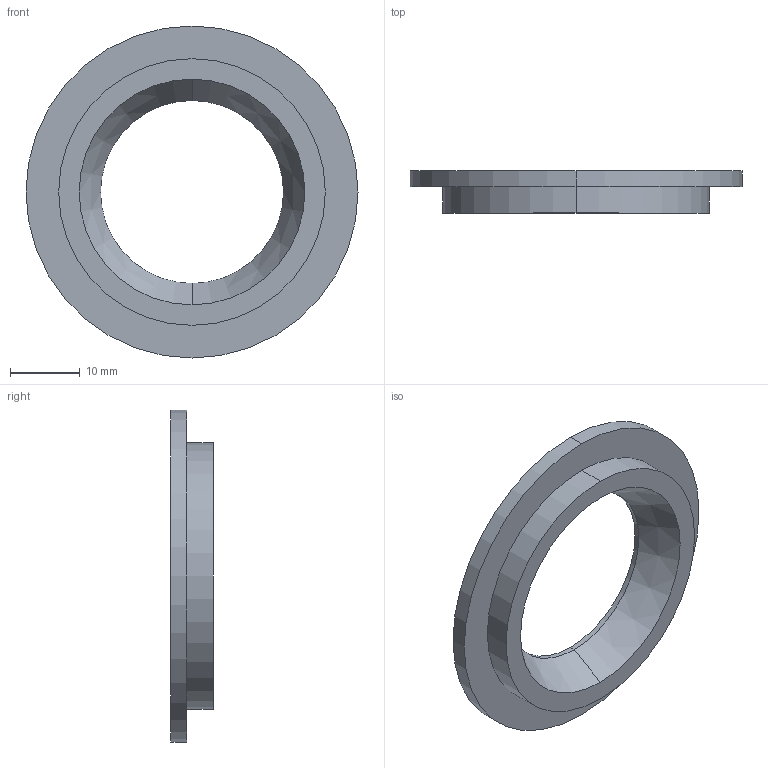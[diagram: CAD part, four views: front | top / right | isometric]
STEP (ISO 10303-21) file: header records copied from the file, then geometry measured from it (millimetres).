
FILE_DESCRIPTION (( 'STEP AP203' ), '1' );
FILE_NAME ('25-26 Washer.STEP', '2019-04-03T01:46:20', ( '' ), ( '' ), 'SwSTEP 2.0', 'SolidWorks 2017', '' );
FILE_SCHEMA (( 'CONFIG_CONTROL_DESIGN' ));
Length unit declared in the file: inch
Products named in the file (1): 25-26 Washer
Bounding box: 47.75 x 6.1 x 47.75 mm (x, y, z)
Volume: 4450.2 mm3; surface area: 3643.7 mm2
Topology: 1 solids, 1 shells, 11 faces, 22 edges, 14 vertices
Faces by surface type: cylinder 6, plane 3, cone 2
Entity records: 377 total; most frequent: DIRECTION 60, CARTESIAN_POINT 48, ORIENTED_EDGE 44, AXIS2_PLACEMENT_3D 26, EDGE_CURVE 22, CIRCLE 14, EDGE_LOOP 14, VERTEX_POINT 14
